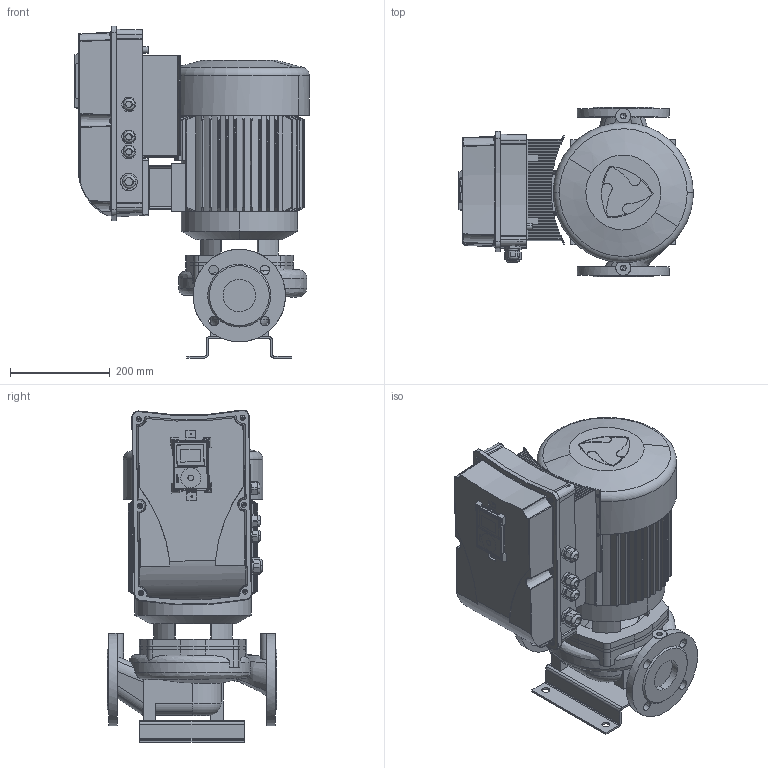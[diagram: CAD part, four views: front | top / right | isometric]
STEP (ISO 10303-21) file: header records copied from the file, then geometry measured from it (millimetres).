
FILE_DESCRIPTION(('STEP AP214'),'1');
FILE_NAME('export.stp','2018-06-04T07:31:28',(' '),(' '),'Spatial InterOp 3D',' ',' ');
FILE_SCHEMA(('AUTOMOTIVE_DESIGN { 1 0 10303 214 1 1 1 1 }'));
Length unit declared in the file: millimetre
Products named in the file (27): W_L65A4770_withou; V_TLL65AB80A1102; V_PPL65AB; V_JALKA35973; W_L65B2750_KPVS; V_EKF19OKN132; V_MKP132_VS; RU_OKN_132; TSUOJA_OKN_132_133; Vacon_MS3; P101415; P101409; P101462; Piirilevyn_pala; A2004-2-4-LP-N-R; P101414; Vacon_Display; CAD-3D-VACON-M100-Display.sldasm; Vacon_display_pla; Vacon_display_scr; DIN_7985-M5x10; M20_tiivisteholkk; M25_tiivisteholkk; G43699; DIN_7985-M5x20; DIN_7985-M4x16; SOVITUSPALA
Assembly tree (40 placements, depth 5):
  W_L65B2750_KPVS
    W_L65A4770_withou
      V_TLL65AB80A1102
      V_PPL65AB
      V_JALKA35973
    V_EKF19OKN132
    V_MKP132_VS
      RU_OKN_132
      TSUOJA_OKN_132_133
      Vacon_MS3
        P101415
        P101409
        P101462
          Piirilevyn_pala
          A2004-2-4-LP-N-R  x2
        P101414
        Vacon_Display
          CAD-3D-VACON-M100-Display.sldasm
          Vacon_display_pla
          Vacon_display_scr
        DIN_7985-M5x10  x6
        M20_tiivisteholkk  x3
        M25_tiivisteholkk
        G43699  x2
        DIN_7985-M5x20  x6
        DIN_7985-M4x16
      SOVITUSPALA
Bounding box: 469.31 x 340 x 664.46 mm (x, y, z)
Volume: 26005421.5 mm3; surface area: 2964238.3 mm2
Topology: 34 solids, 1507 shells, 3955 faces, 14214 edges, 11825 vertices
Faces by surface type: bspline 1554, plane 1083, cylinder 835, cone 272, torus 168, sphere 43
Entity records: 187105 total; most frequent: CARTESIAN_POINT 71428, ORIENTED_EDGE 18484, EDGE_CURVE 13064, VERTEX_POINT 11137, DIRECTION 10683, B_SPLINE_CURVE_WITH_KNOTS 6950, STYLED_ITEM 4036, PRESENTATION_STYLE_ASSIGNMENT 4036
